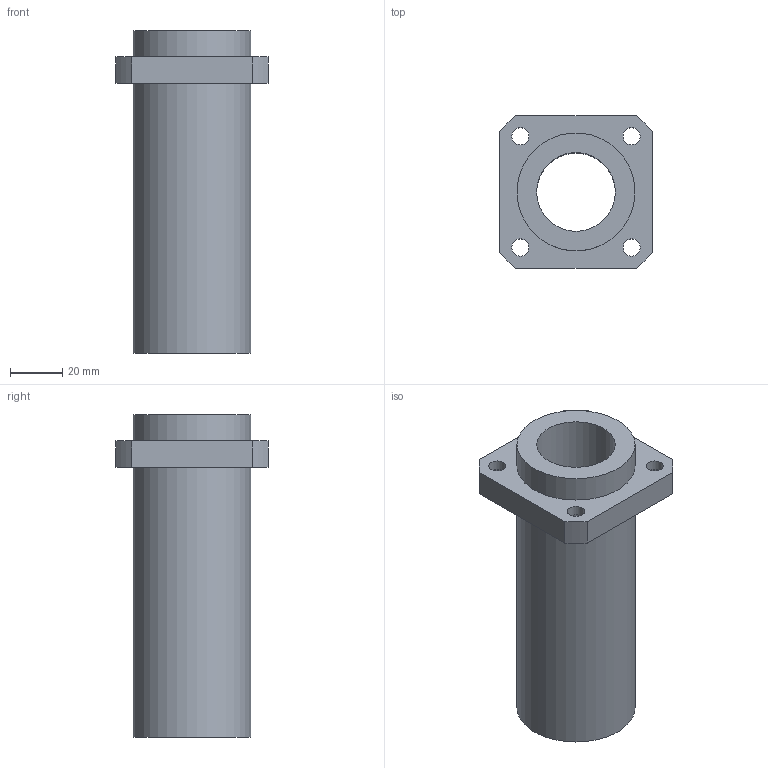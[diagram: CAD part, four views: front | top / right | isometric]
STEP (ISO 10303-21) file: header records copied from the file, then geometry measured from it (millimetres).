
FILE_DESCRIPTION(/* description */ (''),/* implementation_level */ '2;1');
FILE_NAME(/* name */ 'LMKP30LUU',/* time_stamp */ '2019-07-10T14:02:38+02:00',/* author */ ('VĂ©gh MĂˇtĂ©'),/* organization */ ('Bearing Kft'),/* preprocessor_version */ 'ST-DEVELOPER v16.7',/* originating_system */ 'DEX',/* authorisation */ $);
FILE_SCHEMA (('AUTOMOTIVE_DESIGN {1 0 10303 214 3 1 1}'));
Length unit declared in the file: millimetre
Products named in the file (1): LMKP30LUU
Bounding box: 58 x 58 x 123 mm (x, y, z)
Volume: 122890.7 mm3; surface area: 35839 mm2
Topology: 1 solids, 1 shells, 342 faces, 859 edges, 574 vertices
Faces by surface type: plane 262, bspline 63, cylinder 17
Full cylindrical faces by diameter (mm): 6.6 x4, 11 x4, 30 x1, 45 x2
Entity records: 13095 total; most frequent: CARTESIAN_POINT 5297, ORIENTED_EDGE 1682, DIRECTION 1309, EDGE_CURVE 841, LINE 681, VECTOR 681, VERTEX_POINT 570, EDGE_LOOP 421
